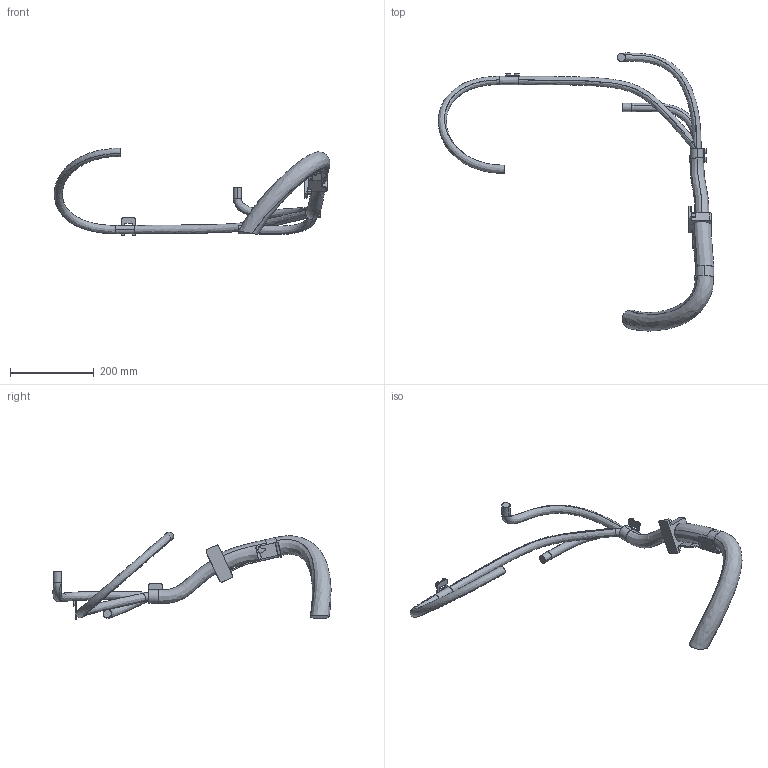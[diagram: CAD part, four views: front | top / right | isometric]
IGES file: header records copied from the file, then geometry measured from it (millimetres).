
Start section: SolidWorks IGES file using analytic representation for surfaces
Global section: file name: C:\DATA\SAP_DOC\LW\IRB 6730\IRB6730_210kg-310_OC_01_SW_J\Export\IRB6730_210kg-310_OC_01_IGES_J\IRB6730_210kg-310_OC_00_LINK03m_CABLE.igs; native system: SolidWorks 2024; preprocessor: SolidWorks 2024; author: SEJOVAS3; date: 260526.104121; units: millimetre
Bounding box: 660.26 x 665.89 x 210.01 mm (x, y, z)
Surface area: 207941.3 mm2 (no closed solid volume)
Topology: 0 solids, 0 shells, 222 faces, 3073 edges, 3070 vertices
Faces by surface type: bspline 143, revolution 79
